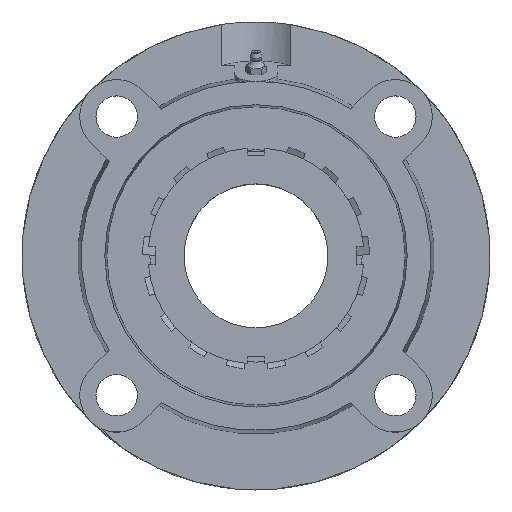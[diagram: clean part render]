
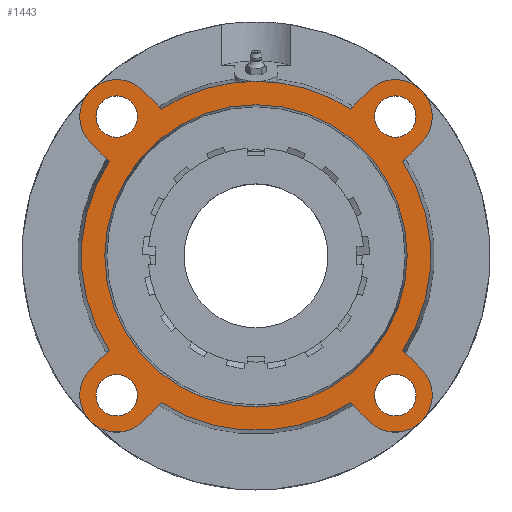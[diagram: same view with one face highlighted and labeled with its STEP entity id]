
A CAD part, top view. The second image highlights one B-rep face of the part: STEP entity #1443.
In plain terms, the highlighted planar face has unit normal (0, 0, 1).
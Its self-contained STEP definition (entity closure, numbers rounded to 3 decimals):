
#181=CARTESIAN_POINT('',(65.928,-77.428,31.));
#182=VERTEX_POINT('',#181);
#183=CARTESIAN_POINT('',(77.428,-77.428,31.));
#184=DIRECTION('',(0.0,0.0,-1.0));
#185=DIRECTION('',(1.0,0.0,0.0));
#186=AXIS2_PLACEMENT_3D('',#183,#184,#185);
#187=CIRCLE('',#186,11.5);
#188=EDGE_CURVE('',#182,#182,#187,.T.);
#209=CARTESIAN_POINT('',(-88.928,77.428,31.));
#210=VERTEX_POINT('',#209);
#211=CARTESIAN_POINT('',(-77.428,77.428,31.));
#212=DIRECTION('',(0.0,0.0,-1.0));
#213=DIRECTION('',(1.0,0.0,0.0));
#214=AXIS2_PLACEMENT_3D('',#211,#212,#213);
#215=CIRCLE('',#214,11.5);
#216=EDGE_CURVE('',#210,#210,#215,.T.);
#237=CARTESIAN_POINT('',(-88.928,-77.428,31.));
#238=VERTEX_POINT('',#237);
#239=CARTESIAN_POINT('',(-77.428,-77.428,31.));
#240=DIRECTION('',(0.0,0.0,-1.0));
#241=DIRECTION('',(1.0,0.0,0.0));
#242=AXIS2_PLACEMENT_3D('',#239,#240,#241);
#243=CIRCLE('',#242,11.5);
#244=EDGE_CURVE('',#238,#238,#243,.T.);
#265=CARTESIAN_POINT('',(65.928,77.428,31.));
#266=VERTEX_POINT('',#265);
#267=CARTESIAN_POINT('',(77.428,77.428,31.));
#268=DIRECTION('',(0.0,0.0,-1.0));
#269=DIRECTION('',(1.0,0.0,0.0));
#270=AXIS2_PLACEMENT_3D('',#267,#268,#269);
#271=CIRCLE('',#270,11.5);
#272=EDGE_CURVE('',#266,#266,#271,.T.);
#445=CARTESIAN_POINT('',(0.0,84.0,31.));
#446=VERTEX_POINT('',#445);
#447=CARTESIAN_POINT('',(0.0,0.,31.));
#448=DIRECTION('',(0.0,0.0,-1.0));
#449=DIRECTION('',(0.0,1.0,0.0));
#450=AXIS2_PLACEMENT_3D('',#447,#448,#449);
#451=CIRCLE('',#450,84.0);
#452=EDGE_CURVE('',#446,#446,#451,.T.);
#722=CARTESIAN_POINT('',(0.,97.,31.));
#723=VERTEX_POINT('',#722);
#845=CARTESIAN_POINT('',(-52.544,81.536,31.));
#846=VERTEX_POINT('',#845);
#860=CARTESIAN_POINT('',(0.0,0.,31.));
#861=DIRECTION('',(0.0,0.0,-1.0));
#862=DIRECTION('',(0.0,1.0,0.0));
#863=AXIS2_PLACEMENT_3D('',#860,#861,#862);
#864=CIRCLE('',#863,97.);
#865=EDGE_CURVE('',#846,#723,#864,.T.);
#878=CARTESIAN_POINT('',(52.544,81.536,31.));
#879=VERTEX_POINT('',#878);
#880=CARTESIAN_POINT('',(0.0,0.,31.));
#881=DIRECTION('',(0.0,0.0,-1.0));
#882=DIRECTION('',(0.0,1.0,0.0));
#883=AXIS2_PLACEMENT_3D('',#880,#881,#882);
#884=CIRCLE('',#883,97.);
#885=EDGE_CURVE('',#723,#879,#884,.T.);
#909=CARTESIAN_POINT('',(-81.536,52.544,31.));
#910=VERTEX_POINT('',#909);
#926=CARTESIAN_POINT('',(-91.924,62.933,31.));
#927=VERTEX_POINT('',#926);
#928=CARTESIAN_POINT('',(-81.536,52.544,31.));
#929=DIRECTION('',(-0.707,0.707,0.));
#930=VECTOR('',#929,14.691);
#931=LINE('',#928,#930);
#932=EDGE_CURVE('',#910,#927,#931,.T.);
#956=CARTESIAN_POINT('',(-52.544,-81.536,31.));
#957=VERTEX_POINT('',#956);
#973=CARTESIAN_POINT('',(-62.933,-91.924,31.));
#974=VERTEX_POINT('',#973);
#975=CARTESIAN_POINT('',(-52.544,-81.536,31.));
#976=DIRECTION('',(-0.707,-0.707,0.));
#977=VECTOR('',#976,14.691);
#978=LINE('',#975,#977);
#979=EDGE_CURVE('',#957,#974,#978,.T.);
#1003=CARTESIAN_POINT('',(81.536,-52.544,31.));
#1004=VERTEX_POINT('',#1003);
#1020=CARTESIAN_POINT('',(91.924,-62.933,31.));
#1021=VERTEX_POINT('',#1020);
#1022=CARTESIAN_POINT('',(81.536,-52.544,31.));
#1023=DIRECTION('',(0.707,-0.707,0.));
#1024=VECTOR('',#1023,14.691);
#1025=LINE('',#1022,#1024);
#1026=EDGE_CURVE('',#1004,#1021,#1025,.T.);
#1051=CARTESIAN_POINT('',(62.933,91.924,31.));
#1052=VERTEX_POINT('',#1051);
#1053=CARTESIAN_POINT('',(52.544,81.536,31.));
#1054=DIRECTION('',(0.707,0.707,0.));
#1055=VECTOR('',#1054,14.691);
#1056=LINE('',#1053,#1055);
#1057=EDGE_CURVE('',#879,#1052,#1056,.T.);
#1076=CARTESIAN_POINT('',(52.544,-81.536,31.));
#1077=VERTEX_POINT('',#1076);
#1099=CARTESIAN_POINT('',(62.933,-91.924,31.));
#1100=VERTEX_POINT('',#1099);
#1107=CARTESIAN_POINT('',(62.933,-91.924,31.));
#1108=DIRECTION('',(-0.707,0.707,0.));
#1109=VECTOR('',#1108,14.691);
#1110=LINE('',#1107,#1109);
#1111=EDGE_CURVE('',#1100,#1077,#1110,.T.);
#1121=CARTESIAN_POINT('',(-91.924,-62.933,31.));
#1122=VERTEX_POINT('',#1121);
#1123=CARTESIAN_POINT('',(-77.428,-77.428,31.0));
#1124=DIRECTION('',(0.0,0.0,-1.0));
#1125=DIRECTION('',(-0.638,0.77,0.0));
#1126=AXIS2_PLACEMENT_3D('',#1123,#1124,#1125);
#1127=CIRCLE('',#1126,20.5);
#1128=EDGE_CURVE('',#974,#1122,#1127,.T.);
#1163=CARTESIAN_POINT('',(-81.536,-52.544,31.));
#1164=VERTEX_POINT('',#1163);
#1185=CARTESIAN_POINT('',(-91.924,-62.933,31.));
#1186=DIRECTION('',(0.707,0.707,0.));
#1187=VECTOR('',#1186,14.691);
#1188=LINE('',#1185,#1187);
#1189=EDGE_CURVE('',#1122,#1164,#1188,.T.);
#1199=CARTESIAN_POINT('',(-62.933,91.924,31.));
#1200=VERTEX_POINT('',#1199);
#1201=CARTESIAN_POINT('',(-77.428,77.428,31.0));
#1202=DIRECTION('',(0.0,0.0,-1.0));
#1203=DIRECTION('',(0.77,0.638,0.0));
#1204=AXIS2_PLACEMENT_3D('',#1201,#1202,#1203);
#1205=CIRCLE('',#1204,20.5);
#1206=EDGE_CURVE('',#927,#1200,#1205,.T.);
#1234=CARTESIAN_POINT('',(-62.933,91.924,31.));
#1235=DIRECTION('',(0.707,-0.707,0.));
#1236=VECTOR('',#1235,14.691);
#1237=LINE('',#1234,#1236);
#1238=EDGE_CURVE('',#1200,#846,#1237,.T.);
#1248=CARTESIAN_POINT('',(91.924,62.933,31.));
#1249=VERTEX_POINT('',#1248);
#1250=CARTESIAN_POINT('',(77.428,77.428,31.0));
#1251=DIRECTION('',(0.0,0.0,-1.0));
#1252=DIRECTION('',(0.638,-0.77,0.0));
#1253=AXIS2_PLACEMENT_3D('',#1250,#1251,#1252);
#1254=CIRCLE('',#1253,20.5);
#1255=EDGE_CURVE('',#1052,#1249,#1254,.T.);
#1284=CARTESIAN_POINT('',(81.536,52.544,31.));
#1285=VERTEX_POINT('',#1284);
#1306=CARTESIAN_POINT('',(91.924,62.933,31.));
#1307=DIRECTION('',(-0.707,-0.707,0.));
#1308=VECTOR('',#1307,14.691);
#1309=LINE('',#1306,#1308);
#1310=EDGE_CURVE('',#1249,#1285,#1309,.T.);
#1320=CARTESIAN_POINT('',(77.428,-77.428,31.0));
#1321=DIRECTION('',(0.0,0.0,-1.0));
#1322=DIRECTION('',(-0.77,-0.638,0.0));
#1323=AXIS2_PLACEMENT_3D('',#1320,#1321,#1322);
#1324=CIRCLE('',#1323,20.5);
#1325=EDGE_CURVE('',#1021,#1100,#1324,.T.);
#1386=CARTESIAN_POINT('',(0.0,48.5,31.));
#1387=DIRECTION('',(0.0,0.0,1.0));
#1388=DIRECTION('',(1.0,0.0,0.0));
#1389=AXIS2_PLACEMENT_3D('',#1386,#1387,#1388);
#1390=PLANE('',#1389);
#1391=CARTESIAN_POINT('',(0.0,0.,31.));
#1392=DIRECTION('',(0.0,0.0,-1.0));
#1393=DIRECTION('',(0.0,1.0,0.0));
#1394=AXIS2_PLACEMENT_3D('',#1391,#1392,#1393);
#1395=CIRCLE('',#1394,97.);
#1396=EDGE_CURVE('',#1077,#957,#1395,.T.);
#1397=ORIENTED_EDGE('',*,*,#1396,.F.);
#1398=ORIENTED_EDGE('',*,*,#1111,.F.);
#1399=ORIENTED_EDGE('',*,*,#1325,.F.);
#1400=ORIENTED_EDGE('',*,*,#1026,.F.);
#1401=CARTESIAN_POINT('',(0.0,0.,31.));
#1402=DIRECTION('',(0.0,0.0,-1.0));
#1403=DIRECTION('',(0.0,1.0,0.0));
#1404=AXIS2_PLACEMENT_3D('',#1401,#1402,#1403);
#1405=CIRCLE('',#1404,97.);
#1406=EDGE_CURVE('',#1285,#1004,#1405,.T.);
#1407=ORIENTED_EDGE('',*,*,#1406,.F.);
#1408=ORIENTED_EDGE('',*,*,#1310,.F.);
#1409=ORIENTED_EDGE('',*,*,#1255,.F.);
#1410=ORIENTED_EDGE('',*,*,#1057,.F.);
#1411=ORIENTED_EDGE('',*,*,#885,.F.);
#1412=ORIENTED_EDGE('',*,*,#865,.F.);
#1413=ORIENTED_EDGE('',*,*,#1238,.F.);
#1414=ORIENTED_EDGE('',*,*,#1206,.F.);
#1415=ORIENTED_EDGE('',*,*,#932,.F.);
#1416=CARTESIAN_POINT('',(0.0,0.,31.));
#1417=DIRECTION('',(0.0,0.0,-1.0));
#1418=DIRECTION('',(0.0,1.0,0.0));
#1419=AXIS2_PLACEMENT_3D('',#1416,#1417,#1418);
#1420=CIRCLE('',#1419,97.);
#1421=EDGE_CURVE('',#1164,#910,#1420,.T.);
#1422=ORIENTED_EDGE('',*,*,#1421,.F.);
#1423=ORIENTED_EDGE('',*,*,#1189,.F.);
#1424=ORIENTED_EDGE('',*,*,#1128,.F.);
#1425=ORIENTED_EDGE('',*,*,#979,.F.);
#1426=EDGE_LOOP('',(#1397,#1398,#1399,#1400,#1407,#1408,#1409,#1410,#1411,#1412,#1413,#1414,#1415,#1422,#1423,#1424,#1425));
#1427=FACE_OUTER_BOUND('',#1426,.T.);
#1428=ORIENTED_EDGE('',*,*,#188,.T.);
#1429=EDGE_LOOP('',(#1428));
#1430=FACE_BOUND('',#1429,.T.);
#1431=ORIENTED_EDGE('',*,*,#216,.T.);
#1432=EDGE_LOOP('',(#1431));
#1433=FACE_BOUND('',#1432,.T.);
#1434=ORIENTED_EDGE('',*,*,#244,.T.);
#1435=EDGE_LOOP('',(#1434));
#1436=FACE_BOUND('',#1435,.T.);
#1437=ORIENTED_EDGE('',*,*,#272,.T.);
#1438=EDGE_LOOP('',(#1437));
#1439=FACE_BOUND('',#1438,.T.);
#1440=ORIENTED_EDGE('',*,*,#452,.T.);
#1441=EDGE_LOOP('',(#1440));
#1442=FACE_BOUND('',#1441,.T.);
#1443=ADVANCED_FACE('',(#1427,#1430,#1433,#1436,#1439,#1442),#1390,.T.);
